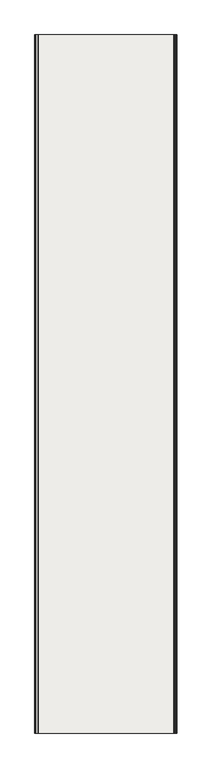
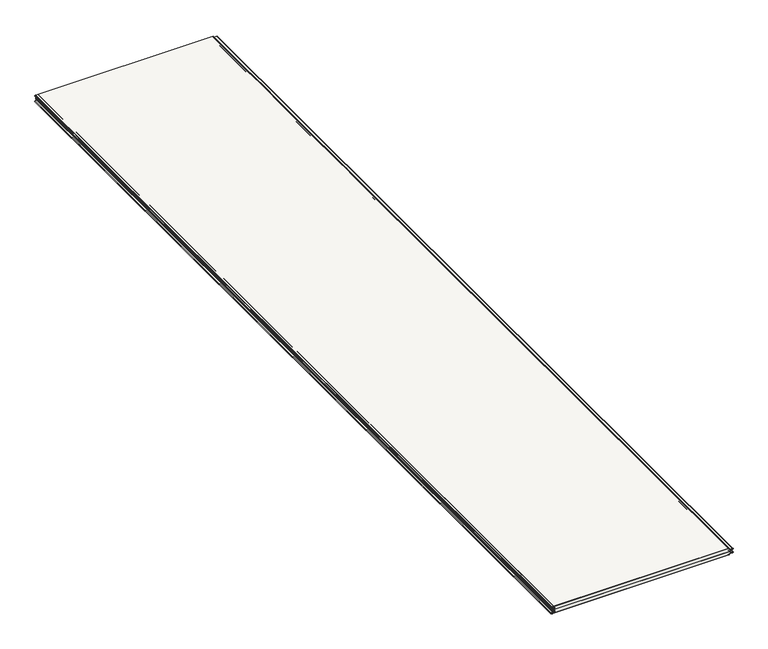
"""IFC4 building model written with IfcOpenShell, lengths in millimetres: covering geometry, Płyta warstwowa ścienna SPW-S CORE PIR (pojedynczy arkusz) : -."""

from ifc_helpers import new_model, si_unit, point, frame, frame_2d, origin, place, context, project, spatial, polyline, circle_curve, trimmed, segment, composite_curve, outline, extrude, source, transform, mapped, element, save
from ifc_brep_helpers import plane_surface, cylinder_surface, revolved_surface, advanced_brep


def covering_53a61d3a(model_context):
    return source(origin(), model_context, "Body", "SolidModel", [
        extrude(outline(composite_curve([segment(trimmed(circle_curve(frame_2d((-37.0000044, -1037.1173522)), 1.9999956), [point((-39.0, -1037.1173522))], [point((-35.0012272, -1037.1871545))], True, "CARTESIAN"), True, "CONTINUOUS"), segment(polyline([(-35.0012272, -1037.1871545), (-34.4480424, -1021.346807)]), True, "CONTINUOUS"), segment(trimmed(circle_curve(frame_2d((-29.950784, -1021.5038626)), 4.5), [point((-34.4480424, -1021.346807))], [point((-25.4569506, -1021.2683586))], False, "CARTESIAN"), True, "CONTINUOUS"), segment(polyline([(-25.4569506, -1021.2683586), (-24.890434, -1032.0785013)]), True, "CONTINUOUS"), segment(trimmed(circle_curve(frame_2d((-23.3924895, -1032.0)), 1.5), [point((-24.890434, -1032.0785013))], [point((-23.3924895, -1033.5))], True, "CARTESIAN"), True, "CONTINUOUS"), segment(polyline([(-23.3924895, -1033.5), (-20.8924895, -1033.5), (-20.8924895, -1034.5), (-23.3924895, -1034.5)]), True, "CONTINUOUS"), segment(trimmed(circle_curve(frame_2d((-23.3924895, -1032.0)), 2.5), [point((-23.3924895, -1034.5))], [point((-25.8890636, -1032.1308355))], False, "CARTESIAN"), True, "CONTINUOUS"), segment(polyline([(-25.8890636, -1032.1308355), (-26.4555803, -1021.3206928)]), True, "CONTINUOUS"), segment(trimmed(circle_curve(frame_2d((-29.950784, -1021.5038626)), 3.5), [point((-26.4555803, -1021.3206928))], [point((-33.4486516, -1021.3817082))], True, "CARTESIAN"), True, "CONTINUOUS"), segment(polyline([(-33.4486516, -1021.3817082), (-34.0018364, -1037.2220557)]), True, "CONTINUOUS"), segment(trimmed(circle_curve(frame_2d((-37.0000044, -1037.1173522)), 2.9999956), [point((-34.0018364, -1037.2220557))], [point((-40.0, -1037.1173522))], False, "CARTESIAN"), True, "CONTINUOUS"), segment(polyline([(-40.0, -1037.1173522), (-40.0, -1035.0), (-39.0, -1035.0), (-39.0, -1037.1173522)]), True, "CONTINUOUS")], self_intersect=False)), frame((0.0, -5000.0, 0.0), z_axis=(0.0, 1.0, 0.0), x_axis=(0.0, 0.0, 1.0)), (0.0, 0.0, 1.0), 5000.0),
        extrude(outline(composite_curve([segment(polyline([(-1.0, -1037.1173522), (-1.0, -1035.0), (0.0, -1035.0), (0.0, -1037.1173522)]), True, "CONTINUOUS"), segment(trimmed(circle_curve(frame_2d((-2.9999956, -1037.1173522)), 2.9999956), [point((0.0, -1037.1173522))], [point((-5.9981636, -1037.2220557))], False, "CARTESIAN"), True, "CONTINUOUS"), segment(polyline([(-5.9981636, -1037.2220557), (-6.5513484, -1021.3817082)]), True, "CONTINUOUS"), segment(trimmed(circle_curve(frame_2d((-10.049216, -1021.5038626)), 3.5), [point((-6.5513484, -1021.3817082))], [point((-13.5444197, -1021.3206928))], True, "CARTESIAN"), True, "CONTINUOUS"), segment(polyline([(-13.5444197, -1021.3206928), (-14.1109364, -1032.1308355)]), True, "CONTINUOUS"), segment(trimmed(circle_curve(frame_2d((-16.6075105, -1032.0)), 2.5), [point((-14.1109364, -1032.1308355))], [point((-16.6075105, -1034.5))], False, "CARTESIAN"), True, "CONTINUOUS"), segment(polyline([(-16.6075105, -1034.5), (-19.1075105, -1034.5), (-19.1075105, -1033.5), (-16.6075105, -1033.5)]), True, "CONTINUOUS"), segment(trimmed(circle_curve(frame_2d((-16.6075105, -1032.0)), 1.5), [point((-16.6075105, -1033.5))], [point((-15.109566, -1032.0785013))], True, "CARTESIAN"), True, "CONTINUOUS"), segment(polyline([(-15.109566, -1032.0785013), (-14.5430494, -1021.2683586)]), True, "CONTINUOUS"), segment(trimmed(circle_curve(frame_2d((-10.049216, -1021.5038626)), 4.5), [point((-14.5430494, -1021.2683586))], [point((-5.5519576, -1021.346807))], False, "CARTESIAN"), True, "CONTINUOUS"), segment(polyline([(-5.5519576, -1021.346807), (-4.9987728, -1037.1871545)]), True, "CONTINUOUS"), segment(trimmed(circle_curve(frame_2d((-2.9999956, -1037.1173522)), 1.9999956), [point((-4.9987728, -1037.1871545))], [point((-1.0, -1037.1173522))], True, "CARTESIAN"), True, "CONTINUOUS")], self_intersect=False)), frame((0.0, -5000.0, 0.0), z_axis=(0.0, 1.0, 0.0), x_axis=(0.0, 0.0, 1.0)), (0.0, 0.0, 1.0), 5000.0),
        advanced_brep(
        [(-1035.0, 0.0, -1.0), (-1035.0, 0.0, 0.0), (-43.1186621, 0.0, 0.0), (-40.1186621, 0.0, -3.0), (-40.1186621, 0.0, -5.07), (-39.1535616, 0.0, -6.0693908), (-22.7218558, 0.0, -6.6431986), (-22.6835162, 0.0, -13.4752455), (-33.6046719, 0.0, -14.0489713), (-35.5, 0.0, -16.0462304), (-35.5, 0.0, -18.5462304), (-36.5, 0.0, -18.5462304), (-36.5, 0.0, -16.0462304), (-33.6570079, 0.0, -13.0503418), (-22.43132, 0.0, -12.4620284), (-22.5993141, 0.0, -7.6513085), (-39.1884611, 0.0, -7.0687817), (-41.1186621, 0.0, -5.07), (-41.1186621, 0.0, -3.0), (-43.1186621, 0.0, -1.0), (-1035.0, -5000.0, -1.0), (-43.1186621, -5000.0, -1.0), (-41.1186621, -5000.0, -3.0), (-41.1186621, -5000.0, -5.07), (-39.1884611, -5000.0, -7.0687817), (-22.5992017, -5000.0, -7.6480914), (-22.43132, -5000.0, -12.4620284), (-33.6570079, -5000.0, -13.0503418), (-36.5, -5000.0, -16.0462304), (-36.5, -5000.0, -18.5462304), (-35.5, -5000.0, -18.5462304), (-35.5, -5000.0, -16.0462304), (-33.6046719, -5000.0, -14.0489713), (-22.6071775, -5000.0, -13.4726171), (-22.6835162, -5000.0, -6.6498388), (-39.1535616, -5000.0, -6.0693908), (-40.1186621, -5000.0, -5.07), (-40.1186621, -5000.0, -3.0), (-43.1186621, -5000.0, 0.0), (-1035.0, -5000.0, 0.0)],
        [
            (0, 1),
            (1, 2),
            (2, 3, circle_curve(frame((-43.1186621, 0.0, -3.0), z_axis=(0.0, 1.0, 0.0), x_axis=(1.0, 0.0, 0.0)), 3.0)),
            (3, 4),
            (4, 5, circle_curve(frame((-39.1186621, 0.0, -5.07), z_axis=(0.0, -1.0, 0.0), x_axis=(1.0, 0.0, 0.0)), 1.0)),
            (5, 6),
            (6, 7, circle_curve(frame((-22.6835162, 0.0, -10.0625421), z_axis=(0.0, 1.0, 0.0), x_axis=(1.0, 0.0, 0.0)), 3.4127033)),
            (7, 8),
            (8, 9, circle_curve(frame((-33.5, 0.0, -16.0462304), z_axis=(0.0, -1.0, 0.0), x_axis=(1.0, 0.0, 0.0)), 2.0)),
            (9, 10),
            (10, 11),
            (11, 12),
            (12, 13, circle_curve(frame((-33.5, 0.0, -16.0462304), z_axis=(0.0, 1.0, 0.0), x_axis=(1.0, 0.0, 0.0)), 3.0)),
            (13, 14),
            (14, 15, circle_curve(frame((-22.6835162, 0.0, -10.0625421), z_axis=(0.0, -1.0, 0.0), x_axis=(1.0, 0.0, 0.0)), 2.4127033)),
            (15, 16),
            (16, 17, circle_curve(frame((-39.1186621, 0.0, -5.07), z_axis=(0.0, 1.0, 0.0), x_axis=(1.0, 0.0, 0.0)), 2.0)),
            (17, 18),
            (18, 19, circle_curve(frame((-43.1186621, 0.0, -3.0), z_axis=(0.0, -1.0, 0.0), x_axis=(1.0, 0.0, 0.0)), 2.0)),
            (19, 0),
            (20, 21),
            (21, 22, circle_curve(frame((-43.1186621, -5000.0, -3.0), z_axis=(0.0, 1.0, 0.0), x_axis=(1.0, 0.0, 0.0)), 2.0)),
            (22, 23),
            (23, 24, circle_curve(frame((-39.1186621, -5000.0, -5.07), z_axis=(0.0, -1.0, 0.0), x_axis=(1.0, 0.0, 0.0)), 2.0)),
            (24, 25),
            (25, 26, circle_curve(frame((-22.6835162, -5000.0, -10.0625421), z_axis=(0.0, 1.0, 0.0), x_axis=(1.0, 0.0, 0.0)), 2.4127033)),
            (26, 27),
            (27, 28, circle_curve(frame((-33.5, -5000.0, -16.0462304), z_axis=(0.0, -1.0, 0.0), x_axis=(1.0, 0.0, 0.0)), 3.0)),
            (28, 29),
            (29, 30),
            (30, 31),
            (31, 32, circle_curve(frame((-33.5, -5000.0, -16.0462304), z_axis=(0.0, 1.0, 0.0), x_axis=(1.0, 0.0, 0.0)), 2.0)),
            (32, 33),
            (33, 34, circle_curve(frame((-22.6835162, -5000.0, -10.0625421), z_axis=(0.0, -1.0, 0.0), x_axis=(1.0, 0.0, 0.0)), 3.4127033)),
            (34, 35),
            (35, 36, circle_curve(frame((-39.1186621, -5000.0, -5.07), z_axis=(0.0, 1.0, 0.0), x_axis=(1.0, 0.0, 0.0)), 1.0)),
            (36, 37),
            (37, 38, circle_curve(frame((-43.1186621, -5000.0, -3.0), z_axis=(0.0, -1.0, 0.0), x_axis=(1.0, 0.0, 0.0)), 3.0)),
            (38, 39),
            (39, 20),
            (19, 21),
            (20, 0),
            (1, 39),
            (38, 2),
            (16, 24),
            (23, 17),
            (22, 18),
            (15, 25),
            (13, 27),
            (26, 14),
            (10, 30),
            (29, 11),
            (12, 28),
            (4, 36),
            (35, 5),
            (9, 31),
            (8, 32),
            (7, 33),
            (6, 34),
            (37, 3),
        ],
        [
            plane_surface(frame((-35.0, 0.0, -1.0), z_axis=(0.0, 1.0, 0.0), x_axis=(1.0, 0.0, 0.0))),
            plane_surface(frame((-35.0, -5000.0, -1.0), z_axis=(0.0, -1.0, 0.0), x_axis=(1.0, 0.0, 0.0))),
            plane_surface(frame((-43.1186621, 0.0, -1.0), z_axis=(0.0, 0.0, -1.0), x_axis=(0.0, -1.0, 0.0))),
            plane_surface(frame((-1035.0, 0.0, 0.0), z_axis=(0.0, 0.0, 1.0), x_axis=(0.0, -1.0, 0.0))),
            cylinder_surface(frame((-39.1186621, 0.0, -5.07), z_axis=(0.0, 1.0, 0.0), x_axis=(1.0, 0.0, 0.0)), 2.0),
            plane_surface(frame((-41.1186621, 0.0, -5.07), z_axis=(-1.0, 0.0, 0.0), x_axis=(0.0, -1.0, 0.0))),
            revolved_surface(polyline([(-41.1186621, -5000.0, -3.0), (-41.1186621, 0.0, -3.0)]), (-43.1186621, 0.0, -3.0), (0.0, -1.0, 0.0)),
            plane_surface(frame((-22.5992017, 0.0, -7.6480914), z_axis=(-0.034899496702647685, 0.0, -0.9993908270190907), x_axis=(0.0, -1.0, 0.0))),
            plane_surface(frame((-33.6570079, 0.0, -13.0503418), z_axis=(-0.05233595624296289, 0.0, 0.998629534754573), x_axis=(0.0, -1.0, 0.0))),
            plane_surface(frame((-35.5, 0.0, -18.5462304), z_axis=(0.0, 0.0, -1.0), x_axis=(0.0, -1.0, 0.0))),
            cylinder_surface(frame((-33.5, 0.0, -16.0462304), z_axis=(0.0, 1.0, 0.0), x_axis=(1.0, 0.0, 0.0)), 3.0),
            plane_surface(frame((-36.5, 0.0, -18.5462304), z_axis=(-1.0, 0.0, 0.0), x_axis=(0.0, -1.0, 0.0))),
            revolved_surface(polyline([(-38.1186621, -5000.0, -5.07), (-38.1186621, 0.0, -5.07)]), (-39.1186621, 0.0, -5.07), (0.0, -1.0, 0.0)),
            plane_surface(frame((-35.5, 0.0, -16.0462304), z_axis=(1.0, 0.0, 0.0), x_axis=(0.0, -1.0, 0.0))),
            revolved_surface(polyline([(-31.5, -5000.0, -16.0462304), (-31.5, 0.0, -16.0462304)]), (-33.5, 0.0, -16.0462304), (0.0, -1.0, 0.0)),
            plane_surface(frame((-22.6071775, 0.0, -13.4726171), z_axis=(0.052335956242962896, 0.0, -0.998629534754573), x_axis=(0.0, -1.0, 0.0))),
            revolved_surface(polyline([(-20.2708129, -5000.0, -10.0625421), (-20.2708129, 0.0, -10.0625421)]), (-22.6835162, 0.0, -10.0625421), (0.0, -1.0, 0.0)),
            cylinder_surface(frame((-22.6835162, 0.0, -10.0625421), z_axis=(0.0, 1.0, 0.0), x_axis=(1.0, 0.0, 0.0)), 3.4127033),
            plane_surface(frame((-1035.0, 0.0, -1.0), z_axis=(-1.0, 0.0, 0.0), x_axis=(0.0, -1.0, 0.0))),
            cylinder_surface(frame((-43.1186621, 0.0, -3.0), z_axis=(0.0, 1.0, 0.0), x_axis=(1.0, 0.0, 0.0)), 3.0),
            plane_surface(frame((-40.1186621, 0.0, -3.0), z_axis=(1.0, 0.0, 0.0), x_axis=(0.0, -1.0, 0.0))),
            plane_surface(frame((-39.1535616, 0.0, -6.0693908), z_axis=(0.03489949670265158, 0.0, 0.9993908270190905), x_axis=(0.0, -1.0, 0.0))),
        ],
        [
            (0, [[1, 2, 3, 4, 5, 6, 7, 8, 9, 10, 11, 12, 13, 14, 15, 16, 17, 18, 19, 20]]),
            (1, [[21, 22, 23, 24, 25, 26, 27, 28, 29, 30, 31, 32, 33, 34, 35, 36, 37, 38, 39, 40]]),
            (2, [[-20, 41, -21, 42]]),
            (3, [[-2, 43, -39, 44]]),
            (4, [[-17, 45, -24, 46]]),
            (5, [[-18, -46, -23, 47]]),
            (6, [[-19, -47, -22, -41]]),
            (7, [[-16, 48, -25, -45]]),
            (8, [[-14, 49, -27, 50]]),
            (9, [[-11, 51, -30, 52]]),
            (10, [[-13, 53, -28, -49]]),
            (11, [[-12, -52, -29, -53]]),
            (12, [[-5, 54, -36, 55]]),
            (13, [[-10, 56, -31, -51]]),
            (14, [[-9, 57, -32, -56]]),
            (15, [[-8, 58, -33, -57]]),
            (16, [[-15, -50, -26, -48]]),
            (17, [[-7, 59, -34, -58]]),
            (18, [[-1, -42, -40, -43]]),
            (19, [[-3, -44, -38, 60]]),
            (20, [[-4, -60, -37, -54]]),
            (21, [[-6, -55, -35, -59]]),
        ],
    ),
        advanced_brep(
        [(-1035.0, 0.0, -39.0), (-43.1186621, 0.0, -39.0), (-41.1186621, 0.0, -37.0), (-41.1186621, 0.0, -34.93), (-39.1884611, 0.0, -32.9312183), (-22.5992017, 0.0, -32.3519086), (-22.43132, 0.0, -27.5379716), (-33.6570079, 0.0, -26.9496582), (-36.5, 0.0, -23.9537696), (-36.5, 0.0, -21.4537696), (-35.5, 0.0, -21.4537696), (-35.5, 0.0, -23.9537696), (-33.6046719, 0.0, -25.9510287), (-22.6071775, 0.0, -26.5273829), (-22.6835162, 0.0, -33.3501612), (-39.1535616, 0.0, -33.9306092), (-40.1186621, 0.0, -34.93), (-40.1186621, 0.0, -37.0), (-43.1186621, 0.0, -40.0), (-1035.0, 0.0, -40.0), (-1035.0, -5000.0, -39.0), (-1035.0, -5000.0, -40.0), (-43.1186621, -5000.0, -40.0), (-40.1186621, -5000.0, -37.0), (-40.1186621, -5000.0, -34.93), (-39.1535616, -5000.0, -33.9306092), (-22.7218558, -5000.0, -33.3568014), (-22.6835162, -5000.0, -26.5247545), (-33.6046719, -5000.0, -25.9510287), (-35.5, -5000.0, -23.9537696), (-35.5, -5000.0, -21.4537696), (-36.5, -5000.0, -21.4537696), (-36.5, -5000.0, -23.9537696), (-33.6570079, -5000.0, -26.9496582), (-22.43132, -5000.0, -27.5379716), (-22.5993141, -5000.0, -32.3486915), (-39.1884611, -5000.0, -32.9312183), (-41.1186621, -5000.0, -34.93), (-41.1186621, -5000.0, -37.0), (-43.1186621, -5000.0, -39.0)],
        [
            (0, 1),
            (1, 2, circle_curve(frame((-43.1186621, 0.0, -37.0), z_axis=(0.0, -1.0, 0.0), x_axis=(1.0, 0.0, 0.0)), 2.0)),
            (2, 3),
            (3, 4, circle_curve(frame((-39.1186621, 0.0, -34.93), z_axis=(0.0, 1.0, 0.0), x_axis=(1.0, 0.0, 0.0)), 2.0)),
            (4, 5),
            (5, 6, circle_curve(frame((-22.6835162, 0.0, -29.9374579), z_axis=(0.0, -1.0, 0.0), x_axis=(1.0, 0.0, 0.0)), 2.4127033)),
            (6, 7),
            (7, 8, circle_curve(frame((-33.5, 0.0, -23.9537696), z_axis=(0.0, 1.0, 0.0), x_axis=(1.0, 0.0, 0.0)), 3.0)),
            (8, 9),
            (9, 10),
            (10, 11),
            (11, 12, circle_curve(frame((-33.5, 0.0, -23.9537696), z_axis=(0.0, -1.0, 0.0), x_axis=(1.0, 0.0, 0.0)), 2.0)),
            (12, 13),
            (13, 14, circle_curve(frame((-22.6835162, 0.0, -29.9374579), z_axis=(0.0, 1.0, 0.0), x_axis=(1.0, 0.0, 0.0)), 3.4127033)),
            (14, 15),
            (15, 16, circle_curve(frame((-39.1186621, 0.0, -34.93), z_axis=(0.0, -1.0, 0.0), x_axis=(1.0, 0.0, 0.0)), 1.0)),
            (16, 17),
            (17, 18, circle_curve(frame((-43.1186621, 0.0, -37.0), z_axis=(0.0, 1.0, 0.0), x_axis=(1.0, 0.0, 0.0)), 3.0)),
            (18, 19),
            (19, 0),
            (20, 21),
            (21, 22),
            (22, 23, circle_curve(frame((-43.1186621, -5000.0, -37.0), z_axis=(0.0, -1.0, 0.0), x_axis=(1.0, 0.0, 0.0)), 3.0)),
            (23, 24),
            (24, 25, circle_curve(frame((-39.1186621, -5000.0, -34.93), z_axis=(0.0, 1.0, 0.0), x_axis=(1.0, 0.0, 0.0)), 1.0)),
            (25, 26),
            (26, 27, circle_curve(frame((-22.6835162, -5000.0, -29.9374579), z_axis=(0.0, -1.0, 0.0), x_axis=(1.0, 0.0, 0.0)), 3.4127033)),
            (27, 28),
            (28, 29, circle_curve(frame((-33.5, -5000.0, -23.9537696), z_axis=(0.0, 1.0, 0.0), x_axis=(1.0, 0.0, 0.0)), 2.0)),
            (29, 30),
            (30, 31),
            (31, 32),
            (32, 33, circle_curve(frame((-33.5, -5000.0, -23.9537696), z_axis=(0.0, -1.0, 0.0), x_axis=(1.0, 0.0, 0.0)), 3.0)),
            (33, 34),
            (34, 35, circle_curve(frame((-22.6835162, -5000.0, -29.9374579), z_axis=(0.0, 1.0, 0.0), x_axis=(1.0, 0.0, 0.0)), 2.4127033)),
            (35, 36),
            (36, 37, circle_curve(frame((-39.1186621, -5000.0, -34.93), z_axis=(0.0, -1.0, 0.0), x_axis=(1.0, 0.0, 0.0)), 2.0)),
            (37, 38),
            (38, 39, circle_curve(frame((-43.1186621, -5000.0, -37.0), z_axis=(0.0, 1.0, 0.0), x_axis=(1.0, 0.0, 0.0)), 2.0)),
            (39, 20),
            (0, 20),
            (39, 1),
            (18, 22),
            (21, 19),
            (3, 37),
            (36, 4),
            (2, 38),
            (35, 5),
            (6, 34),
            (33, 7),
            (9, 31),
            (30, 10),
            (32, 8),
            (15, 25),
            (24, 16),
            (29, 11),
            (28, 12),
            (27, 13),
            (26, 14),
            (23, 17),
        ],
        [
            plane_surface(frame((-30.0, 0.0, -40.0), z_axis=(0.0, 1.0, 0.0), x_axis=(-1.0, 0.0, 0.0))),
            plane_surface(frame((-30.0, -5000.0, -40.0), z_axis=(0.0, -1.0, 0.0), x_axis=(-1.0, 0.0, 0.0))),
            plane_surface(frame((-1035.0, 0.0, -39.0), z_axis=(0.0, 0.0, 1.0), x_axis=(0.0, -1.0, 0.0))),
            plane_surface(frame((-43.1186621, 0.0, -40.0), z_axis=(0.0, 0.0, -1.0), x_axis=(0.0, -1.0, 0.0))),
            cylinder_surface(frame((-39.1186621, 0.0, -34.93), z_axis=(0.0, 1.0, 0.0), x_axis=(1.0, 0.0, 0.0)), 2.0),
            plane_surface(frame((-41.1186621, 0.0, -37.0), z_axis=(-1.0, 0.0, 0.0), x_axis=(0.0, -1.0, 0.0))),
            revolved_surface(polyline([(-41.1186621, -5000.0, -37.0), (-41.1186621, 0.0, -37.0)]), (-43.1186621, 0.0, -37.0), (0.0, -1.0, 0.0)),
            plane_surface(frame((-39.1884611, 0.0, -32.9312183), z_axis=(-0.034899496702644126, 0.0, 0.9993908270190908), x_axis=(0.0, -1.0, 0.0))),
            plane_surface(frame((-22.43132, 0.0, -27.5379716), z_axis=(-0.05233595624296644, 0.0, -0.9986295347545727), x_axis=(0.0, -1.0, 0.0))),
            plane_surface(frame((-36.5, 0.0, -21.4537696), z_axis=(0.0, 0.0, 1.0), x_axis=(0.0, -1.0, 0.0))),
            cylinder_surface(frame((-33.5, 0.0, -23.9537696), z_axis=(0.0, 1.0, 0.0), x_axis=(1.0, 0.0, 0.0)), 3.0),
            plane_surface(frame((-36.5, 0.0, -23.9537696), z_axis=(-1.0, 0.0, 0.0), x_axis=(0.0, -1.0, 0.0))),
            revolved_surface(polyline([(-38.1186621, -5000.0, -34.93), (-38.1186621, 0.0, -34.93)]), (-39.1186621, 0.0, -34.93), (0.0, -1.0, 0.0)),
            plane_surface(frame((-35.5, 0.0, -21.4537696), z_axis=(1.0, 0.0, 0.0), x_axis=(0.0, -1.0, 0.0))),
            revolved_surface(polyline([(-31.5, -5000.0, -23.9537696), (-31.5, 0.0, -23.9537696)]), (-33.5, 0.0, -23.9537696), (0.0, -1.0, 0.0)),
            plane_surface(frame((-33.6046719, 0.0, -25.9510287), z_axis=(0.05233595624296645, 0.0, 0.9986295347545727), x_axis=(0.0, -1.0, 0.0))),
            revolved_surface(polyline([(-20.2708129, -5000.0, -29.9374579), (-20.2708129, 0.0, -29.9374579)]), (-22.6835162, 0.0, -29.9374579), (0.0, -1.0, 0.0)),
            cylinder_surface(frame((-22.6835162, 0.0, -29.9374579), z_axis=(0.0, 1.0, 0.0), x_axis=(1.0, 0.0, 0.0)), 3.4127033),
            plane_surface(frame((-1035.0, 0.0, -40.0), z_axis=(-1.0, 0.0, 0.0), x_axis=(0.0, -1.0, 0.0))),
            plane_surface(frame((-22.7218558, 0.0, -33.3568014), z_axis=(0.03489949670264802, 0.0, -0.9993908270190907), x_axis=(0.0, -1.0, 0.0))),
            plane_surface(frame((-40.1186621, 0.0, -34.93), z_axis=(1.0, 0.0, 0.0), x_axis=(0.0, -1.0, 0.0))),
            cylinder_surface(frame((-43.1186621, 0.0, -37.0), z_axis=(0.0, 1.0, 0.0), x_axis=(1.0, 0.0, 0.0)), 3.0),
        ],
        [
            (0, [[1, 2, 3, 4, 5, 6, 7, 8, 9, 10, 11, 12, 13, 14, 15, 16, 17, 18, 19, 20]]),
            (1, [[21, 22, 23, 24, 25, 26, 27, 28, 29, 30, 31, 32, 33, 34, 35, 36, 37, 38, 39, 40]]),
            (2, [[-1, 41, -40, 42]]),
            (3, [[-19, 43, -22, 44]]),
            (4, [[-4, 45, -37, 46]]),
            (5, [[-3, 47, -38, -45]]),
            (6, [[-2, -42, -39, -47]]),
            (7, [[-5, -46, -36, 48]]),
            (8, [[-7, 49, -34, 50]]),
            (9, [[-10, 51, -31, 52]]),
            (10, [[-8, -50, -33, 53]]),
            (11, [[-9, -53, -32, -51]]),
            (12, [[-16, 54, -25, 55]]),
            (13, [[-11, -52, -30, 56]]),
            (14, [[-12, -56, -29, 57]]),
            (15, [[-13, -57, -28, 58]]),
            (16, [[-6, -48, -35, -49]]),
            (17, [[-14, -58, -27, 59]]),
            (18, [[-20, -44, -21, -41]]),
            (19, [[-15, -59, -26, -54]]),
            (20, [[-17, -55, -24, 60]]),
            (21, [[-18, -60, -23, -43]]),
        ],
    ),
        advanced_brep(
        [(-1037.1871545, -5000.0, -35.0012272), (-1037.1871545, 0.0, -35.0012272), (-1037.1173522, 0.0, -39.0), (-1037.1173522, -5000.0, -39.0), (-1021.346807, -5000.0, -34.4480424), (-1021.346807, 0.0, -34.4480424), (-1021.2683586, -5000.0, -25.4569506), (-1021.2683586, 0.0, -25.4569506), (-1032.0785013, -5000.0, -24.890434), (-1032.0785013, 0.0, -24.890434), (-1033.5, -5000.0, -23.3924895), (-1033.5, 0.0, -23.3924895), (-1033.5, -5000.0, -20.0), (-1033.5, 0.0, -20.0), (-1035.0, -5000.0, -39.0), (-44.6192414, -5000.0, -39.0), (-43.1186621, -5000.0, -39.0), (-41.1186621, -5000.0, -37.0), (-41.1186621, -5000.0, -34.93), (-39.1884611, -5000.0, -32.9312183), (-22.5992017, -5000.0, -32.3519086), (-22.1786572, -5000.0, -27.5781667), (-33.6570078, -5000.0, -26.9496582), (-36.5, -5000.0, -23.9537696), (-36.5, -5000.0, -20.0), (-1035.0, 0.0, -39.0), (-36.5, 0.0, -20.0), (-36.5, 0.0, -23.9537696), (-33.6570078, 0.0, -26.9496582), (-22.1786572, 0.0, -27.5781667), (-22.5993141, 0.0, -32.3486915), (-39.1884611, 0.0, -32.9312183), (-41.1186621, 0.0, -34.93), (-41.1186621, 0.0, -37.0), (-43.1186621, 0.0, -39.0), (-44.6192414, 0.0, -39.0)],
        [
            (0, 1),
            (1, 2, circle_curve(frame((-1037.1173522, 0.0, -37.0000044), z_axis=(0.0, -1.0, 0.0), x_axis=(-1.0, 0.0, 0.0)), 1.9999956)),
            (2, 3),
            (3, 0, circle_curve(frame((-1037.1173522, -5000.0, -37.0000044), z_axis=(0.0, 1.0, 0.0), x_axis=(-1.0, 0.0, 0.0)), 1.9999956)),
            (0, 4),
            (4, 5),
            (5, 1),
            (4, 6, circle_curve(frame((-1021.5038626, -5000.0, -29.950784), z_axis=(0.0, -1.0, 0.0), x_axis=(-1.0, 0.0, 0.0)), 4.5)),
            (6, 7),
            (7, 5, circle_curve(frame((-1021.5038626, 0.0, -29.950784), z_axis=(0.0, 1.0, 0.0), x_axis=(-1.0, 0.0, 0.0)), 4.5)),
            (6, 8),
            (8, 9),
            (9, 7),
            (8, 10, circle_curve(frame((-1032.0, -5000.0, -23.3924895), z_axis=(0.0, 1.0, 0.0), x_axis=(-1.0, 0.0, 0.0)), 1.5)),
            (10, 11),
            (11, 9, circle_curve(frame((-1032.0, 0.0, -23.3924895), z_axis=(0.0, -1.0, 0.0), x_axis=(-1.0, 0.0, 0.0)), 1.5)),
            (10, 12),
            (12, 13),
            (13, 11),
            (3, 14),
            (14, 15),
            (15, 16),
            (16, 17, circle_curve(frame((-43.1186621, -5000.0, -37.0), z_axis=(0.0, -1.0, 0.0), x_axis=(-1.0, 0.0, 0.0)), 2.0)),
            (17, 18),
            (18, 19, circle_curve(frame((-39.1186621, -5000.0, -34.93), z_axis=(0.0, 1.0, 0.0), x_axis=(-1.0, 0.0, 0.0)), 2.0)),
            (19, 20),
            (20, 21, circle_curve(frame((-22.6835162, -5000.0, -29.9374579), z_axis=(0.0, -1.0, 0.0), x_axis=(-1.0, 0.0, 0.0)), 2.4127033)),
            (21, 22),
            (22, 23, circle_curve(frame((-33.5, -5000.0, -23.9537696), z_axis=(0.0, 1.0, 0.0), x_axis=(-1.0, 0.0, 0.0)), 3.0)),
            (23, 24),
            (24, 12),
            (25, 2),
            (13, 26),
            (26, 27),
            (27, 28, circle_curve(frame((-33.5, 0.0, -23.9537696), z_axis=(0.0, -1.0, 0.0), x_axis=(-1.0, 0.0, 0.0)), 3.0)),
            (28, 29),
            (29, 30, circle_curve(frame((-22.6835162, 0.0, -29.9374579), z_axis=(0.0, 1.0, 0.0), x_axis=(-1.0, 0.0, 0.0)), 2.4127033)),
            (30, 31),
            (31, 32, circle_curve(frame((-39.1186621, 0.0, -34.93), z_axis=(0.0, -1.0, 0.0), x_axis=(-1.0, 0.0, 0.0)), 2.0)),
            (32, 33),
            (33, 34, circle_curve(frame((-43.1186621, 0.0, -37.0), z_axis=(0.0, 1.0, 0.0), x_axis=(-1.0, 0.0, 0.0)), 2.0)),
            (34, 35),
            (35, 25),
            (24, 26),
            (34, 16),
            (23, 27),
            (22, 28),
            (21, 29),
            (20, 30),
            (19, 31),
            (18, 32),
            (17, 33),
        ],
        [
            cylinder_surface(frame((-1037.1173522, -5000.0, -37.0000044), z_axis=(0.0, 1.0, 0.0), x_axis=(-1.0, 0.0, 0.0)), 1.9999956),
            plane_surface(frame((-1037.1871545, -5000.0, -35.0012272), z_axis=(-0.034901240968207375, 0.0, 0.9993907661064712), x_axis=(0.0, 1.0, 0.0))),
            revolved_surface(polyline([(-1026.0038626, -5000.0, -29.950784), (-1026.0038626, 0.0, -29.950784)]), (-1021.5038626, -5000.0, -29.950784), (0.0, -1.0, 0.0)),
            plane_surface(frame((-1021.2683586, -5000.0, -25.4569506), z_axis=(-0.05233421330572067, 0.0, -0.9986296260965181), x_axis=(0.0, 1.0, 0.0))),
            cylinder_surface(frame((-1032.0, -5000.0, -23.3924895), z_axis=(0.0, 1.0, 0.0), x_axis=(-1.0, 0.0, 0.0)), 1.5),
            plane_surface(frame((-1033.5, -5000.0, -23.3924895), z_axis=(-1.0, 0.0, 0.0), x_axis=(0.0, 1.0, 0.0))),
            plane_surface(frame((-1065.0, -5000.0, -20.0), z_axis=(0.0, -1.0, 0.0), x_axis=(-1.0, 0.0, 0.0))),
            plane_surface(frame((-1065.0, 0.0, -20.0), z_axis=(0.0, 1.0, 0.0), x_axis=(1.0, 0.0, 0.0))),
            plane_surface(frame((15.0, -5000.0, -20.0), z_axis=(0.0, 0.0, 1.0), x_axis=(0.0, 1.0, 0.0))),
            plane_surface(frame((-1065.0, -5000.0, -39.0), z_axis=(0.0, 0.0, -1.0), x_axis=(0.0, 1.0, 0.0))),
            plane_surface(frame((-36.5, -5000.0, -16.0462304), z_axis=(1.0, 0.0, 0.0), x_axis=(0.0, 1.0, 0.0))),
            revolved_surface(polyline([(-36.5, -5000.0, -23.9537696), (-36.5, 0.0, -23.9537696)]), (-33.5, -5000.0, -23.9537696), (0.0, -1.0, 0.0)),
            plane_surface(frame((-33.6570078, -5000.0, -26.9496582), z_axis=(0.05467409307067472, 0.0, 0.9985042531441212), x_axis=(0.0, 1.0, 0.0))),
            cylinder_surface(frame((-22.6835162, -5000.0, -29.9374579), z_axis=(0.0, 1.0, 0.0), x_axis=(-1.0, 0.0, 0.0)), 2.4127033),
            plane_surface(frame((-22.5992017, -5000.0, -32.3519086), z_axis=(0.03489949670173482, 0.0, -0.9993908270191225), x_axis=(0.0, 1.0, 0.0))),
            revolved_surface(polyline([(-41.1186621, -5000.0, -34.93), (-41.1186621, 0.0, -34.93)]), (-39.1186621, -5000.0, -34.93), (0.0, -1.0, 0.0)),
            plane_surface(frame((-41.1186621, -5000.0, -34.93), z_axis=(1.0, 0.0, 0.0), x_axis=(0.0, 1.0, 0.0))),
            cylinder_surface(frame((-43.1186621, -5000.0, -37.0), z_axis=(0.0, 1.0, 0.0), x_axis=(-1.0, 0.0, 0.0)), 2.0),
        ],
        [
            (0, [[1, 2, 3, 4]]),
            (1, [[-1, 5, 6, 7]]),
            (2, [[-6, 8, 9, 10]]),
            (3, [[-9, 11, 12, 13]]),
            (4, [[-12, 14, 15, 16]]),
            (5, [[-15, 17, 18, 19]]),
            (6, [[20, 21, 22, 23, 24, 25, 26, 27, 28, 29, 30, 31, -17, -14, -11, -8, -5, -4]]),
            (7, [[32, -2, -7, -10, -13, -16, -19, 33, 34, 35, 36, 37, 38, 39, 40, 41, 42, 43]]),
            (8, [[-18, -31, 44, -33]]),
            (9, [[-20, -3, -32, -43, -42, 45, -22, -21]]),
            (10, [[46, -34, -44, -30]]),
            (11, [[-46, -29, 47, -35]]),
            (12, [[-47, -28, 48, -36]]),
            (13, [[-48, -27, 49, -37]]),
            (14, [[-49, -26, 50, -38]]),
            (15, [[-50, -25, 51, -39]]),
            (16, [[-51, -24, 52, -40]]),
            (17, [[-52, -23, -45, -41]]),
        ],
    ),
        advanced_brep(
        [(-1035.0, -5000.0, -1.0), (-1037.1173522, -5000.0, -1.0), (-1037.1871545, -5000.0, -4.9987728), (-1021.346807, -5000.0, -5.5519576), (-1021.2683586, -5000.0, -14.5430494), (-1032.0785013, -5000.0, -15.109566), (-1033.5, -5000.0, -16.6075105), (-1033.5, -5000.0, -20.0), (-36.5, -5000.0, -20.0), (-36.5, -5000.0, -16.0462304), (-33.6570079, -5000.0, -13.0503418), (-22.43132, -5000.0, -12.4620284), (-22.5993141, -5000.0, -7.6513085), (-39.1884611, -5000.0, -7.0687817), (-41.1186621, -5000.0, -5.07), (-41.1186621, -5000.0, -3.0), (-43.1186621, -5000.0, -1.0), (-1037.1173522, 0.0, -1.0), (-1035.0, 0.0, -1.0), (-43.1186621, 0.0, -1.0), (-41.1186621, 0.0, -3.0), (-41.1186621, 0.0, -5.07), (-39.1884611, 0.0, -7.0687817), (-22.5992017, 0.0, -7.6480914), (-22.43132, 0.0, -12.4620284), (-33.6570079, 0.0, -13.0503418), (-36.5, 0.0, -16.0462304), (-36.5, 0.0, -20.0), (-1033.5, 0.0, -20.0), (-1033.5, 0.0, -16.6075105), (-1032.0785013, 0.0, -15.109566), (-1021.2683586, 0.0, -14.5430494), (-1021.346807, 0.0, -5.5519576), (-1037.1871545, 0.0, -4.9987728)],
        [
            (0, 1),
            (1, 2, circle_curve(frame((-1037.1173522, -5000.0, -2.9999956), z_axis=(0.0, -1.0, 0.0), x_axis=(-1.0, 0.0, 0.0)), 1.9999956)),
            (2, 3),
            (3, 4, circle_curve(frame((-1021.5038626, -5000.0, -10.049216), z_axis=(0.0, 1.0, 0.0), x_axis=(-1.0, 0.0, 0.0)), 4.5)),
            (4, 5),
            (5, 6, circle_curve(frame((-1032.0, -5000.0, -16.6075105), z_axis=(0.0, -1.0, 0.0), x_axis=(-1.0, 0.0, 0.0)), 1.5)),
            (6, 7),
            (7, 8),
            (8, 9),
            (9, 10, circle_curve(frame((-33.5, -5000.0, -16.0462304), z_axis=(0.0, 1.0, 0.0), x_axis=(-1.0, 0.0, 0.0)), 3.0)),
            (10, 11),
            (11, 12, circle_curve(frame((-22.6835162, -5000.0, -10.0625421), z_axis=(0.0, -1.0, 0.0), x_axis=(-1.0, 0.0, 0.0)), 2.4127033)),
            (12, 13),
            (13, 14, circle_curve(frame((-39.1186621, -5000.0, -5.07), z_axis=(0.0, 1.0, 0.0), x_axis=(-1.0, 0.0, 0.0)), 2.0)),
            (14, 15),
            (15, 16, circle_curve(frame((-43.1186621, -5000.0, -3.0), z_axis=(0.0, -1.0, 0.0), x_axis=(-1.0, 0.0, 0.0)), 2.0)),
            (16, 0),
            (17, 18),
            (18, 19),
            (19, 20, circle_curve(frame((-43.1186621, 0.0, -3.0), z_axis=(0.0, 1.0, 0.0), x_axis=(-1.0, 0.0, 0.0)), 2.0)),
            (20, 21),
            (21, 22, circle_curve(frame((-39.1186621, 0.0, -5.07), z_axis=(0.0, -1.0, 0.0), x_axis=(-1.0, 0.0, 0.0)), 2.0)),
            (22, 23),
            (23, 24, circle_curve(frame((-22.6835162, 0.0, -10.0625421), z_axis=(0.0, 1.0, 0.0), x_axis=(-1.0, 0.0, 0.0)), 2.4127033)),
            (24, 25),
            (25, 26, circle_curve(frame((-33.5, 0.0, -16.0462304), z_axis=(0.0, -1.0, 0.0), x_axis=(-1.0, 0.0, 0.0)), 3.0)),
            (26, 27),
            (27, 28),
            (28, 29),
            (29, 30, circle_curve(frame((-1032.0, 0.0, -16.6075105), z_axis=(0.0, 1.0, 0.0), x_axis=(-1.0, 0.0, 0.0)), 1.5)),
            (30, 31),
            (31, 32, circle_curve(frame((-1021.5038626, 0.0, -10.049216), z_axis=(0.0, -1.0, 0.0), x_axis=(-1.0, 0.0, 0.0)), 4.5)),
            (32, 33),
            (33, 17, circle_curve(frame((-1037.1173522, 0.0, -2.9999956), z_axis=(0.0, 1.0, 0.0), x_axis=(-1.0, 0.0, 0.0)), 1.9999956)),
            (16, 19),
            (17, 1),
            (7, 28),
            (27, 8),
            (6, 29),
            (5, 30),
            (4, 31),
            (3, 32),
            (2, 33),
            (15, 20),
            (14, 21),
            (13, 22),
            (12, 23),
            (11, 24),
            (10, 25),
            (9, 26),
        ],
        [
            plane_surface(frame((-1065.0, -5000.0, -1.0), z_axis=(0.0, -1.0, 0.0), x_axis=(-1.0, 0.0, 0.0))),
            plane_surface(frame((-1065.0, 0.0, -1.0), z_axis=(0.0, 1.0, 0.0), x_axis=(1.0, 0.0, 0.0))),
            plane_surface(frame((15.0, -5000.0, -1.0), z_axis=(0.0, 0.0, 1.0), x_axis=(0.0, 1.0, 0.0))),
            plane_surface(frame((-1065.0, -5000.0, -20.0), z_axis=(0.0, 0.0, -1.0), x_axis=(0.0, 1.0, 0.0))),
            plane_surface(frame((-1033.5, -5000.0, -23.3924895), z_axis=(-1.0, 0.0, 0.0), x_axis=(0.0, 1.0, 0.0))),
            cylinder_surface(frame((-1032.0, -5000.0, -16.6075105), z_axis=(0.0, 1.0, 0.0), x_axis=(-1.0, 0.0, 0.0)), 1.5),
            plane_surface(frame((-1032.0785013, -5000.0, -15.109566), z_axis=(-0.052334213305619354, 0.0, 0.9986296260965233), x_axis=(0.0, 1.0, 0.0))),
            revolved_surface(polyline([(-1026.0038626, -5000.0, -10.049216), (-1026.0038626, 0.0, -10.049216)]), (-1021.5038626, -5000.0, -10.049216), (0.0, -1.0, 0.0)),
            plane_surface(frame((-1021.346807, -5000.0, -5.5519576), z_axis=(-0.03490124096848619, 0.0, -0.9993907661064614), x_axis=(0.0, 1.0, 0.0))),
            cylinder_surface(frame((-1037.1173522, -5000.0, -2.9999956), z_axis=(0.0, 1.0, 0.0), x_axis=(-1.0, 0.0, 0.0)), 1.9999956),
            cylinder_surface(frame((-43.1186621, -5000.0, -3.0), z_axis=(0.0, 1.0, 0.0), x_axis=(-1.0, 0.0, 0.0)), 2.0),
            plane_surface(frame((-41.1186621, -5000.0, -3.0), z_axis=(1.0, 0.0, 0.0), x_axis=(0.0, 1.0, 0.0))),
            revolved_surface(polyline([(-41.1186621, -5000.0, -5.07), (-41.1186621, 0.0, -5.07)]), (-39.1186621, -5000.0, -5.07), (0.0, -1.0, 0.0)),
            plane_surface(frame((-39.1884611, -5000.0, -7.0687817), z_axis=(0.03489949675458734, 0.0, 0.9993908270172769), x_axis=(0.0, 1.0, 0.0))),
            cylinder_surface(frame((-22.6835162, -5000.0, -10.0625421), z_axis=(0.0, 1.0, 0.0), x_axis=(-1.0, 0.0, 0.0)), 2.4127033),
            plane_surface(frame((-22.43132, -5000.0, -12.4620284), z_axis=(0.05233595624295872, 0.0, -0.9986295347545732), x_axis=(0.0, 1.0, 0.0))),
            revolved_surface(polyline([(-36.5, -5000.0, -16.0462304), (-36.5, 0.0, -16.0462304)]), (-33.5, -5000.0, -16.0462304), (0.0, -1.0, 0.0)),
            plane_surface(frame((-36.5, -5000.0, -16.0462304), z_axis=(1.0, 0.0, 0.0), x_axis=(0.0, 1.0, 0.0))),
        ],
        [
            (0, [[1, 2, 3, 4, 5, 6, 7, 8, 9, 10, 11, 12, 13, 14, 15, 16, 17]]),
            (1, [[18, 19, 20, 21, 22, 23, 24, 25, 26, 27, 28, 29, 30, 31, 32, 33, 34]]),
            (2, [[-1, -17, 35, -19, -18, 36]]),
            (3, [[37, -28, 38, -8]]),
            (4, [[39, -29, -37, -7]]),
            (5, [[-39, -6, 40, -30]]),
            (6, [[-40, -5, 41, -31]]),
            (7, [[-41, -4, 42, -32]]),
            (8, [[-42, -3, 43, -33]]),
            (9, [[-43, -2, -36, -34]]),
            (10, [[44, -20, -35, -16]]),
            (11, [[-44, -15, 45, -21]]),
            (12, [[-45, -14, 46, -22]]),
            (13, [[-46, -13, 47, -23]]),
            (14, [[-47, -12, 48, -24]]),
            (15, [[-48, -11, 49, -25]]),
            (16, [[-49, -10, 50, -26]]),
            (17, [[-50, -9, -38, -27]]),
        ],
    ),
    ])


if __name__ == "__main__":
    model = new_model("IFC4")
    model_context = context("Model", 3, world=origin())
    ifc_project = project(units=[si_unit("LENGTHUNIT", "METRE", prefix="MILLI")], contexts=[model_context])
    site = spatial("IfcSite", under=ifc_project)
    building = spatial("IfcBuilding", under=site)
    placement = place(None, origin())
    covering_shape = covering_53a61d3a(model_context)
    element("IfcCovering", 1, ObjectType="Płyta warstwowa ścienna SPW-S CORE PIR (pojedynczy arkusz) : -", at=placement, inside=building, context=model_context, shape_type="MappedRepresentation", body=[
        mapped(covering_shape, transform((0.0, 0.0, 0.0), x_axis=(1.0, 0.0, 0.0), y_axis=(0.0, 1.0, 0.0), z_axis=(0.0, 0.0, 1.0))),
    ])
    save(model, "model.ifc")
